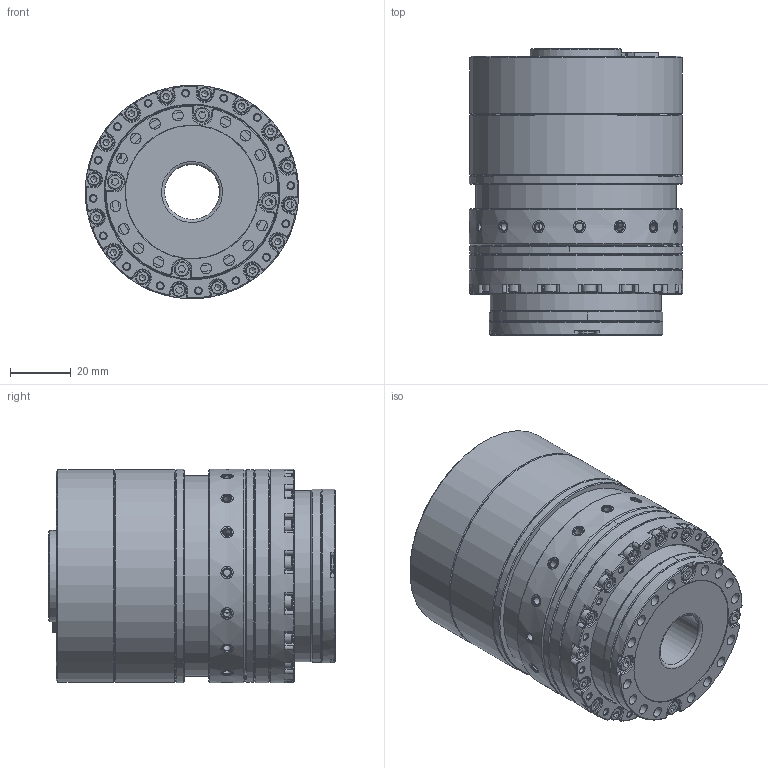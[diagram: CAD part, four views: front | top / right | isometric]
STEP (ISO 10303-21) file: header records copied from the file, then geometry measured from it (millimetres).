
FILE_DESCRIPTION (( 'STEP AP214' ), '1' );
FILE_NAME ('CRA-RI60-70-PRO-XX-B-2E-EC.STEP', '2024-08-30T03:19:09', ( '' ), ( '' ), 'SwSTEP 2.0', 'SolidWorks 2021', '' );
FILE_SCHEMA (( 'AUTOMOTIVE_DESIGN' ));
Length unit declared in the file: millimetre
Products named in the file (1): CRA-RI60-70-PRO-XX-B-2E-EC
Bounding box: 70 x 94 x 70 mm (x, y, z)
Surface area: 51441.2 mm2 (no closed solid volume)
Topology: 0 solids, 89 shells, 870 faces, 2753 edges, 1952 vertices
Faces by surface type: plane 430, cylinder 209, cone 199, torus 31, bspline 1
Full cylindrical faces by diameter (mm): 2 x4, 2.05 x16, 2.5 x16, 3.5 x18, 3.8 x4, 4 x16, 4.1 x3, 4.5 x16, 5 x4, 18 x1, 19.9 x1, 20 x2, 22 x1, 24 x1, 25 x1, 30 x1, 43.7 x1, 56.3 x1, 57 x1, 57.1 x1, 66 x1, 66.5 x1, 67.5 x1, 70 x6
Entity records: 41625 total; most frequent: CARTESIAN_POINT 8490, DIRECTION 4998, ORIENTED_EDGE 3869, EDGE_CURVE 2481, VERTEX_POINT 1921, AXIS2_PLACEMENT_3D 1767, LINE 1464, VECTOR 1464
